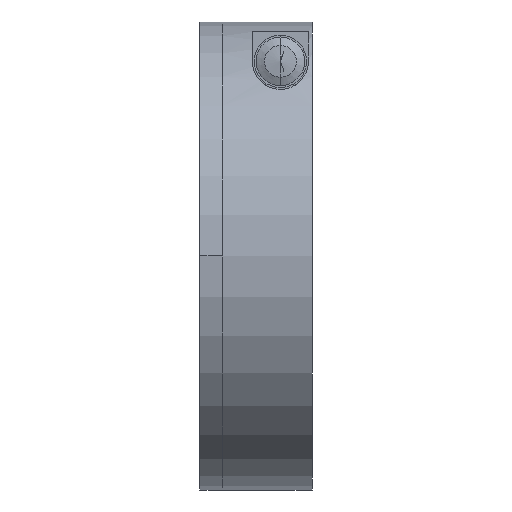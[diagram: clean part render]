
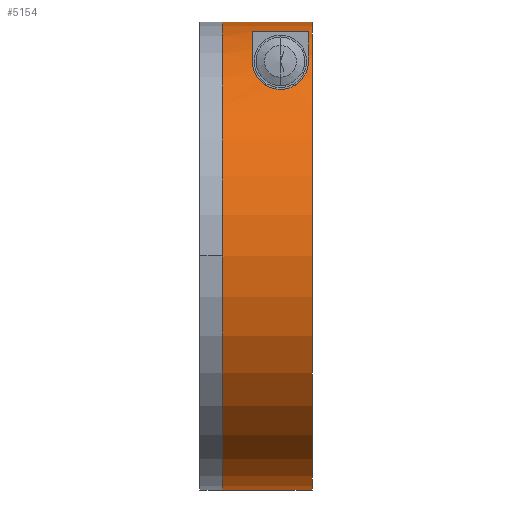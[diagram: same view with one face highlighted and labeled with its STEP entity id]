
A CAD part, left-side view. The second image highlights one B-rep face of the part: STEP entity #5154.
In plain terms, the highlighted cylindrical face has radius 62.5 mm (diameter 125 mm), a partial arc.
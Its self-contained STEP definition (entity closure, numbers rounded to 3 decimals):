
#28 = CARTESIAN_POINT ( 'NONE',  ( -43.78, 7.209, 44.605 ) ) ;
#60 = CARTESIAN_POINT ( 'NONE',  ( -39.774, 2.011, 48.214 ) ) ;
#139 = VERTEX_POINT ( 'NONE', #1812 ) ;
#203 = DIRECTION ( 'NONE',  ( 0., 0., -1. ) ) ;
#414 = CARTESIAN_POINT ( 'NONE',  ( 0., 24., 62.5 ) ) ;
#420 = CARTESIAN_POINT ( 'NONE',  ( -42.628, 4.409, 45.708 ) ) ;
#426 = ORIENTED_EDGE ( 'NONE', *, *, #805, .F. ) ;
#436 = ORIENTED_EDGE ( 'NONE', *, *, #3390, .F. ) ;
#525 = EDGE_CURVE ( 'NONE', #2487, #4229, #2560, .T. ) ;
#541 = EDGE_CURVE ( 'NONE', #139, #861, #1726, .T. ) ;
#554 = CARTESIAN_POINT ( 'NONE',  ( -43.217, 5.429, 45.151 ) ) ;
#596 = ORIENTED_EDGE ( 'NONE', *, *, #4674, .T. ) ;
#747 = CYLINDRICAL_SURFACE ( 'NONE', #4026, 62.5 ) ;
#765 = AXIS2_PLACEMENT_3D ( 'NONE', #5552, #2524, #4543 ) ;
#785 = LINE ( 'NONE', #5224, #2569 ) ;
#788 = CARTESIAN_POINT ( 'NONE',  ( -43.886, 8.5, 44.5 ) ) ;
#795 = ORIENTED_EDGE ( 'NONE', *, *, #2313, .T. ) ;
#805 = EDGE_CURVE ( 'NONE', #4300, #5450, #4305, .T. ) ;
#861 = VERTEX_POINT ( 'NONE', #3625 ) ;
#975 = CARTESIAN_POINT ( 'NONE',  ( -38.322, 1.462, 49.377 ) ) ;
#1011 = CARTESIAN_POINT ( 'NONE',  ( -35.754, 1., 51.28 ) ) ;
#1028 = VECTOR ( 'NONE', #2037, 1000. ) ;
#1075 = CARTESIAN_POINT ( 'NONE',  ( -43.716, 10.107, 44.667 ) ) ;
#1079 = ORIENTED_EDGE ( 'NONE', *, *, #1658, .T. ) ;
#1192 = CIRCLE ( 'NONE', #5978, 62.5 ) ;
#1255 = DIRECTION ( 'NONE',  ( 0., 0., 1. ) ) ;
#1279 = DIRECTION ( 'NONE',  ( 0., -1., 0. ) ) ;
#1399 = CARTESIAN_POINT ( 'NONE',  ( -41.113, 2.822, 47.078 ) ) ;
#1432 = CARTESIAN_POINT ( 'NONE',  ( -43.451, 5.991, 44.926 ) ) ;
#1504 = CARTESIAN_POINT ( 'NONE',  ( -40.234, 2.247, 47.831 ) ) ;
#1566 = CARTESIAN_POINT ( 'NONE',  ( -43.551, 10.716, 44.828 ) ) ;
#1583 = CARTESIAN_POINT ( 'NONE',  ( 0., -9.445, 62.5 ) ) ;
#1658 = EDGE_CURVE ( 'NONE', #4231, #4229, #2369, .T. ) ;
#1679 = DIRECTION ( 'NONE',  ( 0., -1., 0. ) ) ;
#1726 = CIRCLE ( 'NONE', #5885, 62.5 ) ;
#1793 = FACE_OUTER_BOUND ( 'NONE', #4403, .T. ) ;
#1812 = CARTESIAN_POINT ( 'NONE',  ( -18., 16., 59.852 ) ) ;
#1854 = FACE_BOUND ( 'NONE', #5691, .T. ) ;
#1860 = ORIENTED_EDGE ( 'NONE', *, *, #541, .F. ) ;
#1991 = CARTESIAN_POINT ( 'NONE',  ( -43.886, 8.5, 44.5 ) ) ;
#2015 = CARTESIAN_POINT ( 'NONE',  ( -36.797, 15.899, 50.536 ) ) ;
#2037 = DIRECTION ( 'NONE',  ( 0., -1., 0. ) ) ;
#2050 = CARTESIAN_POINT ( 'NONE',  ( -43.451, 11.009, 44.925 ) ) ;
#2170 = CARTESIAN_POINT ( 'NONE',  ( 0., 0., -62.5 ) ) ;
#2313 = EDGE_CURVE ( 'NONE', #2634, #4231, #1192, .T. ) ;
#2369 = LINE ( 'NONE', #3346, #5018 ) ;
#2444 = CARTESIAN_POINT ( 'NONE',  ( -38.82, 1.619, 48.986 ) ) ;
#2487 = VERTEX_POINT ( 'NONE', #2743 ) ;
#2488 = ORIENTED_EDGE ( 'NONE', *, *, #4045, .F. ) ;
#2510 = CARTESIAN_POINT ( 'NONE',  ( -39.748, 15.002, 48.236 ) ) ;
#2516 = CARTESIAN_POINT ( 'NONE',  ( -43.864, 7.847, 44.522 ) ) ;
#2524 = DIRECTION ( 'NONE',  ( 0., 1., 0. ) ) ;
#2543 = CARTESIAN_POINT ( 'NONE',  ( -41.521, 13.85, 46.718 ) ) ;
#2552 = CARTESIAN_POINT ( 'NONE',  ( -42.286, 3.96, 46.024 ) ) ;
#2560 = CIRCLE ( 'NONE', #4540, 62.5 ) ;
#2569 = VECTOR ( 'NONE', #1279, 1000. ) ;
#2585 = CARTESIAN_POINT ( 'NONE',  ( 0., 24., 0. ) ) ;
#2634 = VERTEX_POINT ( 'NONE', #414 ) ;
#2743 = CARTESIAN_POINT ( 'NONE',  ( 0., 0., 62.5 ) ) ;
#2992 = CARTESIAN_POINT ( 'NONE',  ( -43.216, 11.573, 45.152 ) ) ;
#3002 = CARTESIAN_POINT ( 'NONE',  ( -34.673, 1., 52. ) ) ;
#3063 = CARTESIAN_POINT ( 'NONE',  ( -43.886, 8.5, 44.5 ) ) ;
#3086 = B_SPLINE_CURVE_WITH_KNOTS ( 'NONE', 3,
 ( #1991, #3456, #2516, #28, #3943, #3979, #1432, #554, #5933, #3523, #420, #2552, #5443, #4537, #1399, #1504, #60, #2444, #975, #6385, #1011, #3002 ),
 .UNSPECIFIED., .F., .F.,
 ( 4, 2, 2, 2, 2, 2, 2, 2, 2, 2, 4 ),
 ( 0.015, 0.016, 0.017, 0.018, 0.019, 0.02, 0.021, 0.023, 0.025, 0.027, 0.031 ),
 .UNSPECIFIED. ) ;
#3095 = CARTESIAN_POINT ( 'NONE',  ( -43.865, 9.147, 44.521 ) ) ;
#3179 = CARTESIAN_POINT ( 'NONE',  ( 0., 24., -62.5 ) ) ;
#3346 = CARTESIAN_POINT ( 'NONE',  ( 0., -9.445, -62.5 ) ) ;
#3390 = EDGE_CURVE ( 'NONE', #861, #5776, #5983, .T. ) ;
#3449 = CARTESIAN_POINT ( 'NONE',  ( -41.103, 14.186, 47.086 ) ) ;
#3456 = CARTESIAN_POINT ( 'NONE',  ( -43.886, 8.176, 44.5 ) ) ;
#3523 = CARTESIAN_POINT ( 'NONE',  ( -42.789, 4.651, 45.556 ) ) ;
#3625 = CARTESIAN_POINT ( 'NONE',  ( -34.673, 16., 52. ) ) ;
#3646 = ORIENTED_EDGE ( 'NONE', *, *, #4846, .F. ) ;
#3663 = CARTESIAN_POINT ( 'NONE',  ( 0., 0., 0. ) ) ;
#3710 = DIRECTION ( 'NONE',  ( 0., -1., 0. ) ) ;
#3777 = CARTESIAN_POINT ( 'NONE',  ( 0., -9.445, 0. ) ) ;
#3934 = CARTESIAN_POINT ( 'NONE',  ( -40.219, 14.761, 47.844 ) ) ;
#3943 = CARTESIAN_POINT ( 'NONE',  ( -43.717, 6.897, 44.667 ) ) ;
#3972 = CARTESIAN_POINT ( 'NONE',  ( -42.638, 12.609, 45.699 ) ) ;
#3979 = CARTESIAN_POINT ( 'NONE',  ( -43.553, 6.289, 44.827 ) ) ;
#4003 = ORIENTED_EDGE ( 'NONE', *, *, #525, .F. ) ;
#4026 = AXIS2_PLACEMENT_3D ( 'NONE', #3777, #3710, #4794 ) ;
#4045 = EDGE_CURVE ( 'NONE', #2634, #2487, #5946, .T. ) ;
#4050 = DIRECTION ( 'NONE',  ( 0., 0., -1. ) ) ;
#4229 = VERTEX_POINT ( 'NONE', #2170 ) ;
#4231 = VERTEX_POINT ( 'NONE', #3179 ) ;
#4286 = CARTESIAN_POINT ( 'NONE',  ( 0., 16., 0. ) ) ;
#4300 = VERTEX_POINT ( 'NONE', #5136 ) ;
#4305 = CIRCLE ( 'NONE', #765, 62.5 ) ;
#4403 = EDGE_LOOP ( 'NONE', ( #2488, #795, #1079, #4003 ) ) ;
#4501 = CARTESIAN_POINT ( 'NONE',  ( -43.78, 9.787, 44.604 ) ) ;
#4532 = CARTESIAN_POINT ( 'NONE',  ( -43.886, 8.825, 44.5 ) ) ;
#4537 = CARTESIAN_POINT ( 'NONE',  ( -41.534, 3.162, 46.706 ) ) ;
#4540 = AXIS2_PLACEMENT_3D ( 'NONE', #3663, #4709, #203 ) ;
#4543 = DIRECTION ( 'NONE',  ( 0., 0., -1. ) ) ;
#4652 = CARTESIAN_POINT ( 'NONE',  ( -18., 1., 59.852 ) ) ;
#4674 = EDGE_CURVE ( 'NONE', #139, #5450, #785, .T. ) ;
#4709 = DIRECTION ( 'NONE',  ( 0., -1., 0. ) ) ;
#4794 = DIRECTION ( 'NONE',  ( 0., 0., -1. ) ) ;
#4846 = EDGE_CURVE ( 'NONE', #5776, #4300, #3086, .T. ) ;
#4990 = CARTESIAN_POINT ( 'NONE',  ( -38.299, 15.544, 49.395 ) ) ;
#5018 = VECTOR ( 'NONE', #6311, 1000. ) ;
#5023 = CARTESIAN_POINT ( 'NONE',  ( -35.754, 16., 51.279 ) ) ;
#5136 = CARTESIAN_POINT ( 'NONE',  ( -34.673, 1., 52. ) ) ;
#5154 = ADVANCED_FACE ( 'NONE', ( #1793, #1854 ), #747, .T. ) ;
#5224 = CARTESIAN_POINT ( 'NONE',  ( -18., -9.445, 59.852 ) ) ;
#5443 = CARTESIAN_POINT ( 'NONE',  ( -42.105, 3.75, 46.19 ) ) ;
#5450 = VERTEX_POINT ( 'NONE', #4652 ) ;
#5469 = CARTESIAN_POINT ( 'NONE',  ( -42.294, 13.056, 46.019 ) ) ;
#5541 = CARTESIAN_POINT ( 'NONE',  ( -34.673, 16., 52. ) ) ;
#5552 = CARTESIAN_POINT ( 'NONE',  ( 0., 1., 0. ) ) ;
#5691 = EDGE_LOOP ( 'NONE', ( #436, #1860, #596, #426, #3646 ) ) ;
#5776 = VERTEX_POINT ( 'NONE', #788 ) ;
#5885 = AXIS2_PLACEMENT_3D ( 'NONE', #4286, #1679, #1255 ) ;
#5933 = CARTESIAN_POINT ( 'NONE',  ( -43.084, 5.162, 45.278 ) ) ;
#5946 = LINE ( 'NONE', #1583, #1028 ) ;
#5978 = AXIS2_PLACEMENT_3D ( 'NONE', #2585, #6452, #4050 ) ;
#5983 = B_SPLINE_CURVE_WITH_KNOTS ( 'NONE', 3,
 ( #5541, #5023, #2015, #4990, #6409, #2510, #3934, #3449, #2543, #5469, #3972, #6029, #2992, #2050, #1566, #1075, #4501, #3095, #4532, #3063 ),
 .UNSPECIFIED., .F., .F.,
 ( 4, 2, 2, 2, 2, 2, 2, 2, 2, 4 ),
 ( 0., 0.004, 0.006, 0.008, 0.01, 0.012, 0.012, 0.013, 0.014, 0.015 ),
 .UNSPECIFIED. ) ;
#6029 = CARTESIAN_POINT ( 'NONE',  ( -43.08, 11.845, 45.281 ) ) ;
#6311 = DIRECTION ( 'NONE',  ( 0., -1., 0. ) ) ;
#6385 = CARTESIAN_POINT ( 'NONE',  ( -36.802, 1.101, 50.532 ) ) ;
#6409 = CARTESIAN_POINT ( 'NONE',  ( -38.789, 15.392, 49.011 ) ) ;
#6452 = DIRECTION ( 'NONE',  ( 0., -1., 0. ) ) ;
